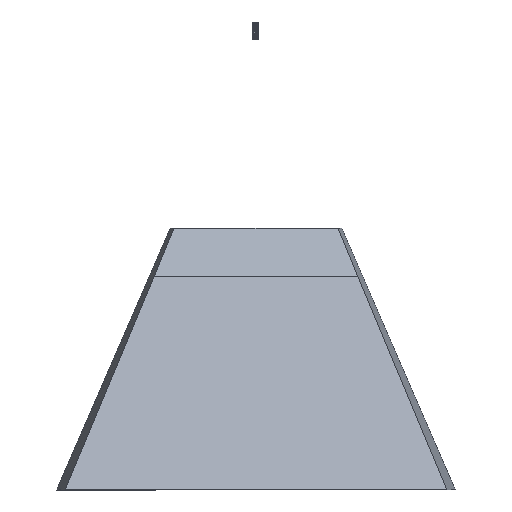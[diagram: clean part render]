
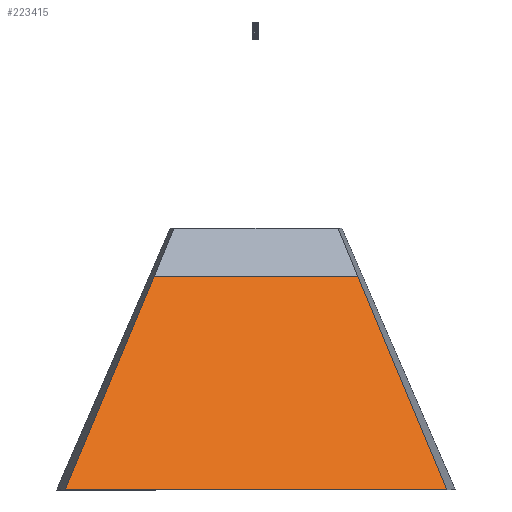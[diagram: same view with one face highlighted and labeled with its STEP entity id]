
A CAD part, left-side view. The second image highlights one B-rep face of the part: STEP entity #223415.
In plain terms, the highlighted planar face has unit normal (-0.899, 0, 0.439).
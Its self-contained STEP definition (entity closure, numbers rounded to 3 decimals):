
#6801 = CARTESIAN_POINT ( 'NONE',  ( -961.202, 2018.4, -1580.134 ) ) ;
#9043 = LINE ( 'NONE', #206754, #125586 ) ;
#15919 = ORIENTED_EDGE ( 'NONE', *, *, #102406, .F. ) ;
#23120 = LINE ( 'NONE', #104769, #106001 ) ;
#28819 = DIRECTION ( 'NONE',  ( -0.411, -0.351, -0.842 ) ) ;
#41444 = EDGE_CURVE ( 'NONE', #77990, #166308, #240644, .T. ) ;
#42391 = PLANE ( 'NONE',  #177670 ) ;
#47743 = ORIENTED_EDGE ( 'NONE', *, *, #100238, .T. ) ;
#60301 = VECTOR ( 'NONE', #104734, 1000. ) ;
#64649 = VERTEX_POINT ( 'NONE', #89728 ) ;
#67366 = FACE_OUTER_BOUND ( 'NONE', #244376, .T. ) ;
#77990 = VERTEX_POINT ( 'NONE', #112417 ) ;
#81097 = DIRECTION ( 'NONE',  ( 0., -1., 0. ) ) ;
#83234 = DIRECTION ( 'NONE',  ( 0.899, 0., -0.439 ) ) ;
#84527 = DIRECTION ( 'NONE',  ( -0.439, 0., -0.899 ) ) ;
#89728 = CARTESIAN_POINT ( 'NONE',  ( -1109.107, 796.933, -1883.115 ) ) ;
#100238 = EDGE_CURVE ( 'NONE', #64649, #77990, #23120, .T. ) ;
#102406 = EDGE_CURVE ( 'NONE', #157231, #166308, #9043, .T. ) ;
#104734 = DIRECTION ( 'NONE',  ( 0., -1., 0. ) ) ;
#104769 = CARTESIAN_POINT ( 'NONE',  ( 292.6, -400.157, 988.265 ) ) ;
#106001 = VECTOR ( 'NONE', #185143, 1000. ) ;
#112417 = CARTESIAN_POINT ( 'NONE',  ( -1905.822, 1477.346, -3515.178 ) ) ;
#125586 = VECTOR ( 'NONE', #28819, 1000. ) ;
#129696 = LINE ( 'NONE', #227315, #60301 ) ;
#130693 = CARTESIAN_POINT ( 'NONE',  ( -1109.107, -760.133, -1883.115 ) ) ;
#133909 = ORIENTED_EDGE ( 'NONE', *, *, #41444, .T. ) ;
#157231 = VERTEX_POINT ( 'NONE', #130693 ) ;
#166308 = VERTEX_POINT ( 'NONE', #180686 ) ;
#177670 = AXIS2_PLACEMENT_3D ( 'NONE', #6801, #83234, #84527 ) ;
#180686 = CARTESIAN_POINT ( 'NONE',  ( -1905.822, -1440.546, -3515.178 ) ) ;
#181245 = CARTESIAN_POINT ( 'NONE',  ( -1905.822, 2018.4, -3515.178 ) ) ;
#185143 = DIRECTION ( 'NONE',  ( -0.411, 0.351, -0.842 ) ) ;
#199590 = VECTOR ( 'NONE', #81097, 1000. ) ;
#204647 = EDGE_CURVE ( 'NONE', #64649, #157231, #129696, .T. ) ;
#206754 = CARTESIAN_POINT ( 'NONE',  ( 292.6, 436.957, 988.265 ) ) ;
#223415 = ADVANCED_FACE ( 'NONE', ( #67366 ), #42391, .F. ) ;
#227315 = CARTESIAN_POINT ( 'NONE',  ( -1109.107, 2018.4, -1883.115 ) ) ;
#240644 = LINE ( 'NONE', #181245, #199590 ) ;
#244376 = EDGE_LOOP ( 'NONE', ( #254673, #47743, #133909, #15919 ) ) ;
#254673 = ORIENTED_EDGE ( 'NONE', *, *, #204647, .F. ) ;
